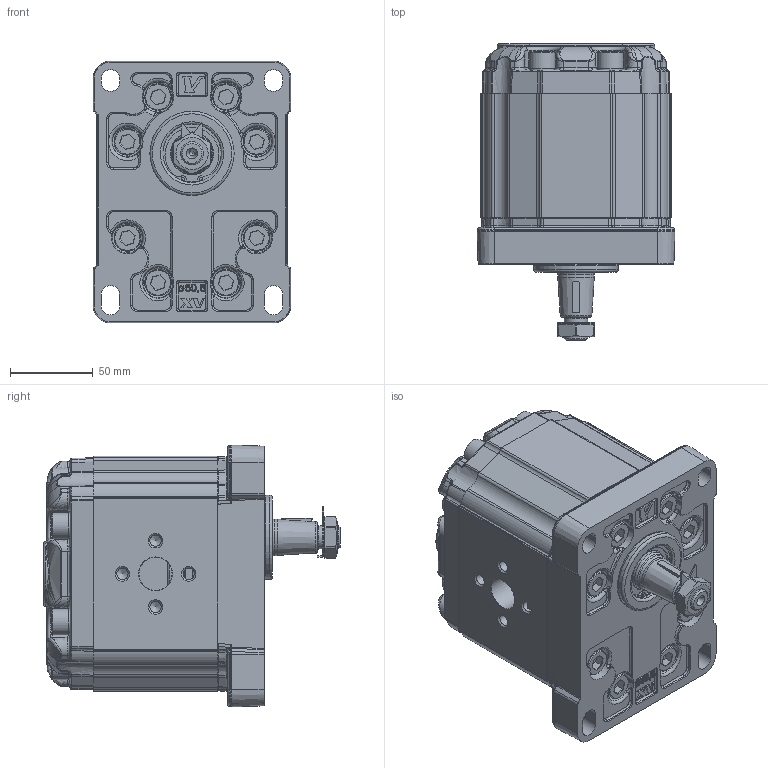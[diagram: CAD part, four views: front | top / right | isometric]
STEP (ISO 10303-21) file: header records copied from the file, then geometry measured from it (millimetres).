
FILE_DESCRIPTION( ( 'Unknown' ), '1' );
FILE_NAME( 'P:/montaggio_easy/output/STP/X3U7202AAAA.stp', 'Unknown', ( 'Unknown' ), ( 'Unknown' ), 'PSStep 14.0', 'Unknown', ' ' );
FILE_SCHEMA( ( 'AUTOMOTIVE_DESIGN { 1 0 10303 214 1 1 1 1 }' ) );
Length unit declared in the file: millimetre
Products named in the file (5): Assem1; X3U02; 3A; X3AAH75; XU301-A
Bounding box: 119.47 x 179 x 158.07 mm (x, y, z)
Surface area: 397152.2 mm2
Topology: 8 solids, 42 shells, 5816 faces, 15092 edges, 9580 vertices
Faces by surface type: bspline 2190, plane 1812, cylinder 1252, torus 228, cone 176, extrusion 96, sphere 56, revolution 4, offset 2
Full cylindrical faces by diameter (mm): 2 x4, 6.8 x16, 10 x32, 14 x4, 15.8 x32, 16 x32, 20 x4, 22 x2, 24.98 x2, 25.5 x2, 26.8 x2, 29.425 x2, 31.42 x2, 33.304 x2, 34.7 x2, 35 x4, 35.2 x2, 37 x2, 50.8 x2
Entity records: 138914 total; most frequent: CARTESIAN_POINT 58590, ORIENTED_EDGE 14542, EDGE_CURVE 7271, DIRECTION 7263, VERTEX_POINT 4717, B_SPLINE_CURVE_WITH_KNOTS 3871, EDGE_LOOP 3226, FACE_OUTER_BOUND 3025
